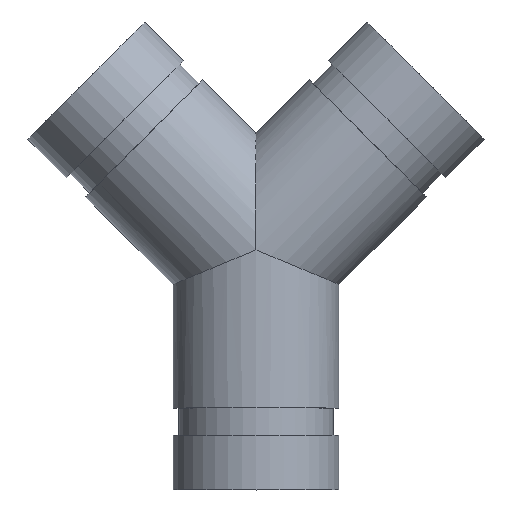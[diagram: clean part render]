
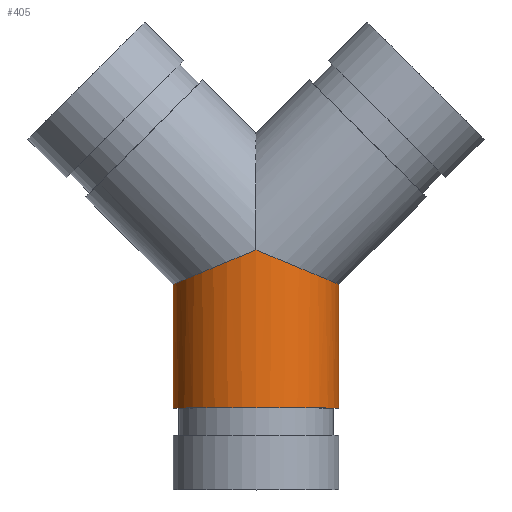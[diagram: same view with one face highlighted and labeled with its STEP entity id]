
A CAD part, top view. The second image highlights one B-rep face of the part: STEP entity #405.
In plain terms, the highlighted cylindrical face has radius 24.13 mm (diameter 48.26 mm), a full revolution.
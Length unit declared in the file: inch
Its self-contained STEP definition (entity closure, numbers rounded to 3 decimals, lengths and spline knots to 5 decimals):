
#81=FACE_OUTER_BOUND('',#109,.T.);
#109=EDGE_LOOP('',(#342,#343,#344,#345,#346,#347));
#119=ELLIPSE('',#471,1.02827,0.95);
#120=ELLIPSE('',#472,1.02827,0.95);
#123=ELLIPSE('',#481,1.02827,0.95);
#135=LINE('',#753,#147);
#147=VECTOR('',#621,0.95);
#153=CIRCLE('',#440,0.95);
#183=VERTEX_POINT('',#676);
#202=VERTEX_POINT('',#730);
#204=VERTEX_POINT('',#733);
#205=VERTEX_POINT('',#736);
#219=EDGE_CURVE('',#183,#183,#153,.T.);
#244=EDGE_CURVE('',#204,#202,#119,.T.);
#246=EDGE_CURVE('',#205,#204,#120,.T.);
#254=EDGE_CURVE('',#205,#202,#123,.T.);
#255=EDGE_CURVE('',#183,#204,#135,.T.);
#342=ORIENTED_EDGE('',*,*,#219,.T.);
#343=ORIENTED_EDGE('',*,*,#255,.T.);
#344=ORIENTED_EDGE('',*,*,#244,.T.);
#345=ORIENTED_EDGE('',*,*,#254,.F.);
#346=ORIENTED_EDGE('',*,*,#246,.T.);
#347=ORIENTED_EDGE('',*,*,#255,.F.);
#363=CYLINDRICAL_SURFACE('',#482,0.95);
#405=ADVANCED_FACE('',(#81),#363,.T.);
#440=AXIS2_PLACEMENT_3D('',#677,#526,#527);
#471=AXIS2_PLACEMENT_3D('',#734,#593,#594);
#472=AXIS2_PLACEMENT_3D('',#737,#596,#597);
#481=AXIS2_PLACEMENT_3D('',#751,#617,#618);
#482=AXIS2_PLACEMENT_3D('',#752,#619,#620);
#526=DIRECTION('center_axis',(0.,1.,0.));
#527=DIRECTION('ref_axis',(1.,0.,0.));
#593=DIRECTION('center_axis',(0.383,-0.924,0.));
#594=DIRECTION('ref_axis',(0.924,0.383,0.));
#596=DIRECTION('center_axis',(0.383,-0.924,0.));
#597=DIRECTION('ref_axis',(0.924,0.383,0.));
#617=DIRECTION('center_axis',(0.383,0.924,0.));
#618=DIRECTION('ref_axis',(0.924,-0.383,0.));
#619=DIRECTION('center_axis',(0.,-1.,0.));
#620=DIRECTION('ref_axis',(1.,0.,0.));
#621=DIRECTION('',(0.,1.,0.));
#676=CARTESIAN_POINT('',(-0.95,-1.812,0.));
#677=CARTESIAN_POINT('Origin',(0.,-1.812,0.));
#730=CARTESIAN_POINT('',(0.,0.,-0.95));
#733=CARTESIAN_POINT('',(-0.95,-0.3935,0.));
#734=CARTESIAN_POINT('Origin',(0.,0.,
0.));
#736=CARTESIAN_POINT('',(0.,0.,0.95));
#737=CARTESIAN_POINT('Origin',(0.,0.,
0.));
#751=CARTESIAN_POINT('Origin',(0.,0.,0.));
#752=CARTESIAN_POINT('Origin',(0.,0.,0.));
#753=CARTESIAN_POINT('',(-0.95,0.,0.));
